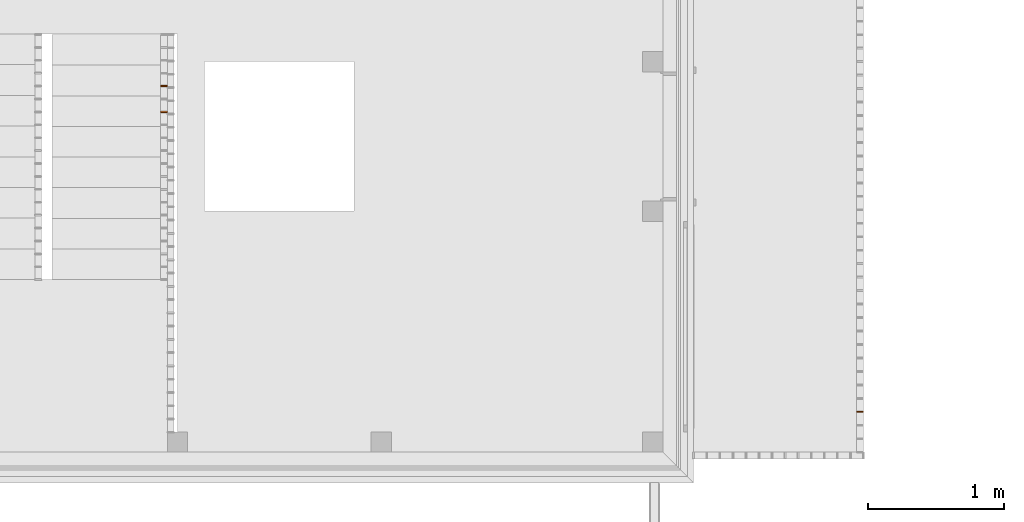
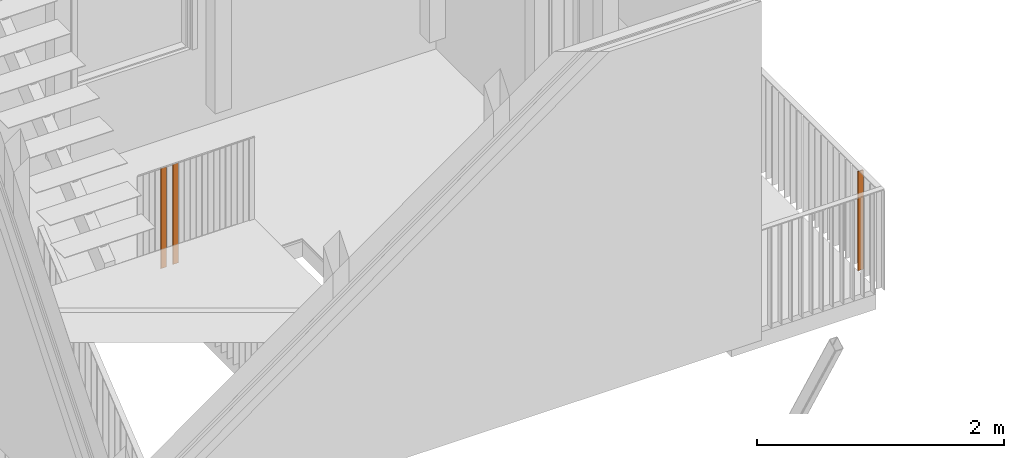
# One storey, part 94 of 100: 3 proxies, 2 elements without a shape of their own.
"""IFC2X3 building model written with IfcOpenShell, lengths in millimetres."""

from ifc_helpers import new_model, entity, si_unit, converted_unit, derived_unit, money_unit, direction, frame, origin_with_axes, place, context, subcontext, project, spatial, faceted_brep, material, type_object, element, aggregate, save


model = new_model("IFC2X3")

# Units and contexts
model_context = context("Model", 3, precision=0.01, world=origin_with_axes(), true_north=direction((0.0, 1.0)))
body_context = subcontext(model_context, "Body", "Model", "MODEL_VIEW")
ifc_project = project(units=[si_unit("LENGTHUNIT", "METRE", prefix="MILLI"), si_unit("AREAUNIT", "SQUARE_METRE"), si_unit("VOLUMEUNIT", "CUBIC_METRE"), converted_unit("PLANEANGLEUNIT", "DEGREE", entity("IfcPlaneAngleMeasure", 0.0174532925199), si_unit("PLANEANGLEUNIT", "RADIAN"), dimensions=[0, 0, 0, 0, 0, 0, 0]), si_unit("SOLIDANGLEUNIT", "STERADIAN"), money_unit("EUR"), converted_unit("TIMEUNIT", "Year", entity("IfcTimeMeasure", 31556926.0), si_unit("TIMEUNIT", "SECOND"), dimensions=[0, 0, 1, 0, 0, 0, 0]), si_unit("MASSUNIT", "GRAM", prefix="KILO"), si_unit("THERMODYNAMICTEMPERATUREUNIT", "DEGREE_CELSIUS"), si_unit("LUMINOUSINTENSITYUNIT", "LUMEN"), si_unit("ENERGYUNIT", "JOULE", prefix="MEGA"), derived_unit("THERMALCONDUCTANCEUNIT", [(si_unit("POWERUNIT", "WATT"), 1), (si_unit("LENGTHUNIT", "METRE"), -1), (si_unit("THERMODYNAMICTEMPERATUREUNIT", "KELVIN"), -1)]), derived_unit("SPECIFICHEATCAPACITYUNIT", [(si_unit("ENERGYUNIT", "JOULE"), 1), (si_unit("MASSUNIT", "GRAM", prefix="KILO"), -1), (si_unit("THERMODYNAMICTEMPERATUREUNIT", "KELVIN"), -1)]), derived_unit("MASSDENSITYUNIT", [(si_unit("MASSUNIT", "GRAM", prefix="KILO"), 1), (si_unit("VOLUMEUNIT", "CUBIC_METRE"), -1)])], contexts=[model_context])

# Site, building, storey
site_placement = place(None, origin_with_axes())
site = spatial("IfcSite", under=ifc_project, at=site_placement, Name="Politse- ja Piirivalveameti ning Päästeameti ühishoone", CompositionType="ELEMENT")
building_placement = place(site_placement, origin_with_axes())
building = spatial("IfcBuilding", under=site, at=building_placement, Name="Politse- ja Piirivalveameti ning Päästeameti ühishoone", CompositionType="ELEMENT")
storey_placement = place(building_placement, frame((0.0, 0.0, 3800.0), z_axis=(0.0, 0.0, 1.0), x_axis=(1.0, 0.0, 0.0)))
storey = spatial("IfcBuildingStorey", under=building, at=storey_placement, Name="Teine korrus", CompositionType="ELEMENT", Elevation=3800.0)

# Railing, proxy
railing_type = type_object("IfcRailingType", Name="Railing Type", PredefinedType="NOTDEFINED")
railing_1_placement = place(storey_placement, frame((-7106.69877185, 4799.53601155, -549.999987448), z_axis=(0.0, 0.0, 1.0), x_axis=(1.0, 0.0, 0.0)))
railing_1 = element("IfcRailing", 1, at=railing_1_placement, inside=storey, type_object=railing_type, Name="PIIRE 2", PredefinedType="NOTDEFINED")
ifc_material = material(Name="Teras - Konstruktsioon")
building_element_proxy_type = type_object("IfcBuildingElementProxyType", Name="IfcBuildingElementProxy", PredefinedType="NOTDEFINED")
proxy_1_placement = place(railing_1_placement, frame((25.0, -4577.05490873, -1.25517001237e-05), z_axis=(0.0, 0.0, 1.0), x_axis=(1.0, 0.0, 0.0)))
proxy_1 = element("IfcBuildingElementProxy", 2, at=proxy_1_placement, type_object=building_element_proxy_type, material=ifc_material, Name="BALUSTER - 001", context=body_context, shape_type="Brep", body=[
    faceted_brep([(25.0, 5.0, 0.0), (-25.0, 5.0, 0.0), (-25.0, 5.0, 980.000012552), (25.0, 5.0, 980.000012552), (25.0, -5.0, 0.0), (-25.0, -5.0, 0.0), (-25.0, -5.0, 980.000012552), (25.0, -5.0, 980.000012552)], [[[0, 1, 2, 3]], [[0, 4, 5, 1]], [[1, 5, 6, 2]], [[3, 2, 6, 7]], [[4, 0, 3, 7]], [[5, 4, 7, 6]]]),
])
aggregate(railing_1, [proxy_1])

# Railing, proxies
railing_2_placement = place(storey_placement, frame((-12181.6987719, 2843.99975677, -499.999970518), z_axis=(0.0, 0.0, 1.0), x_axis=(1.0, 0.0, 0.0)))
railing_2 = element("IfcRailing", 3, at=railing_2_placement, inside=storey, type_object=railing_type, Name="PIIRE 2", PredefinedType="NOTDEFINED")
proxy_2_placement = place(railing_2_placement, frame((-25.0, -223.375920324, 308.771917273), z_axis=(0.0, 0.0, 1.0), x_axis=(1.0, 0.0, 0.0)))
proxy_2 = element("IfcBuildingElementProxy", 4, at=proxy_2_placement, type_object=building_element_proxy_type, material=ifc_material, Name="BALUSTER - 001", context=body_context, shape_type="Brep", body=[
    faceted_brep([(-25.0, -5.0, 4.06243551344), (25.0, -5.0, 4.06243551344), (25.0, -5.0, 994.062448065), (-25.0, -5.0, 994.062448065), (-25.0, 5.0, -4.06243551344), (25.0, 5.0, -4.06243551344), (25.0, 5.0, 985.937577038), (-25.0, 5.0, 985.937577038)], [[[0, 1, 2, 3]], [[0, 4, 5, 1]], [[1, 5, 6, 2]], [[3, 2, 6, 7]], [[4, 0, 3, 7]], [[5, 4, 7, 6]]]),
])
proxy_3_placement = place(railing_2_placement, frame((-25.0, -413.39243185, 463.157882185), z_axis=(0.0, 0.0, 1.0), x_axis=(1.0, 0.0, 0.0)))
proxy_3 = element("IfcBuildingElementProxy", 5, at=proxy_3_placement, type_object=building_element_proxy_type, material=ifc_material, Name="BALUSTER - 001", context=body_context, shape_type="Brep", body=[
    faceted_brep([(-25.0, -5.0, 4.06243551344), (25.0, -5.0, 4.06243551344), (25.0, -5.0, 994.062448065), (-25.0, -5.0, 994.062448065), (-25.0, 5.0, -4.06243551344), (25.0, 5.0, -4.06243551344), (25.0, 5.0, 985.937577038), (-25.0, 5.0, 985.937577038)], [[[0, 1, 2, 3]], [[0, 4, 5, 1]], [[1, 5, 6, 2]], [[3, 2, 6, 7]], [[4, 0, 3, 7]], [[5, 4, 7, 6]]]),
])
aggregate(railing_2, [proxy_2, proxy_3])

save(model, "model.ifc")
